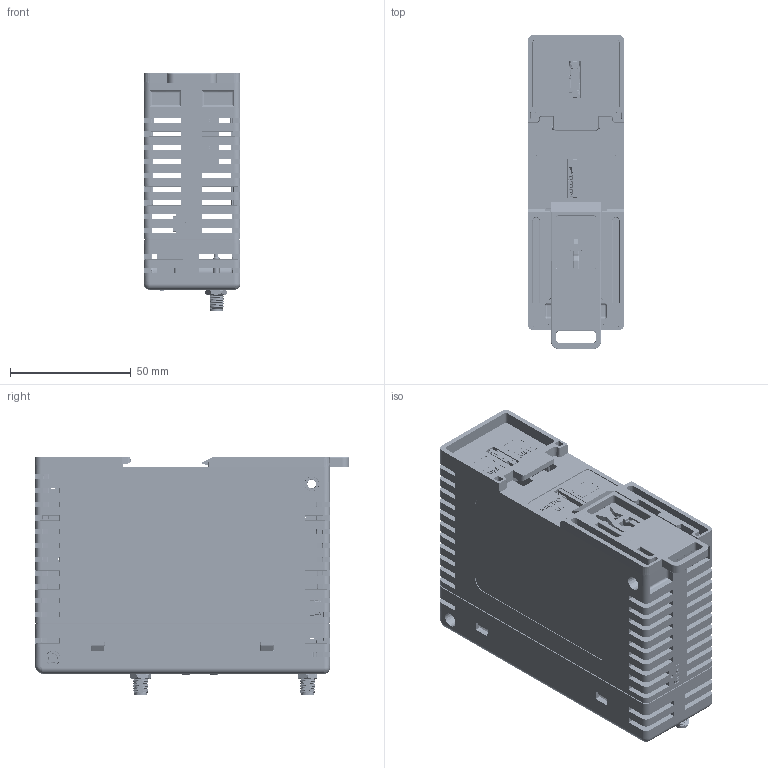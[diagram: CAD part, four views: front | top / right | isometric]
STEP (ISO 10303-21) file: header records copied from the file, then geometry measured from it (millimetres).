
FILE_DESCRIPTION(/* description */ ('Unknown'),/* implementation_level */ '2;1');
FILE_NAME(/* name */ 'ELXM Assembly R1.2a.modified_2023-12-20',/* time_stamp */ '2023-12-20T08:12:39+01:00',/* author */ ('Unknown'),/* organization */ ('Unknown'),/* preprocessor_version */ 'ST-DEVELOPER v18.102',/* originating_system */ 'Solid Edge',/* authorisation */ 'Unknown');
FILE_SCHEMA (('AUTOMOTIVE_DESIGN {1 0 10303 214 3 1 1}'));
Products named in the file (20): ELXM Assembly R1.2a; SMA; SMA Nut; RXL1 Clip R0.3; RLX1 Overlay1 R1.1_Serial; Ajax Radio; 1100094401 gw7903b pcb_oa_0; 1100094401 gw7903b pcb; CAPC1005X55L_02040052; CAPC1005X65L_02040783; 02150534_REV1_02150534; 02150534_02150534; 02050949_02050949; 02050568_02050568; 02050767_02050617; 02050602_02050602; 02051000_02051000; 02280506_02280506; RXL1 Base R1.2; RXL1 Lid R1.2
Assembly tree (26 placements, depth 3):
  ELXM Assembly R1.2a
    SMA  x2
    SMA Nut  x2
    RXL1 Clip R0.3
    RLX1 Overlay1 R1.1_Serial
    Ajax Radio
    1100094401 gw7903b pcb_oa_0
      1100094401 gw7903b pcb
      CAPC1005X55L_02040052
      CAPC1005X65L_02040783
      02150534_REV1_02150534
      02150534_02150534  x5
      02050949_02050949  x2
      02050568_02050568
      02050767_02050617
      02050602_02050602
      02051000_02051000
      02280506_02280506
    RXL1 Base R1.2
    RXL1 Lid R1.2
Bounding box: 40 x 129.84 x 98.73 mm (x, y, z)
Volume: 117025 mm3; surface area: 124915.4 mm2
Topology: 23 solids, 83 shells, 8518 faces, 24501 edges, 15859 vertices
Faces by surface type: plane 5170, cylinder 2445, bspline 283, torus 271, cone 248, sphere 101
Full cylindrical faces by diameter (mm): 0.3 x1, 0.35 x1, 0.45 x8, 0.457 x1, 0.6 x4, 0.7 x1, 0.85 x1, 0.9 x32, 0.926 x4, 1 x2, 1.1 x2, 1.2 x14, 1.25 x7, 1.6 x8, 1.8 x2, 1.901 x2, 2 x2, 2.4 x4, 2.5 x6, 2.769 x2, 3 x1, 3.2 x1, 3.25 x4, 3.4 x2, 4.199 x2, 4.299 x3, 4.6 x1, 4.681 x2, 5.35 x2, 6.401 x2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
Entity records: 295709 total; most frequent: CARTESIAN_POINT 84440, ORIENTED_EDGE 43174, DIRECTION 34070, EDGE_CURVE 22204, LINE 14782, VECTOR 14782, VERTEX_POINT 14518, AXIS2_PLACEMENT_3D 9644
